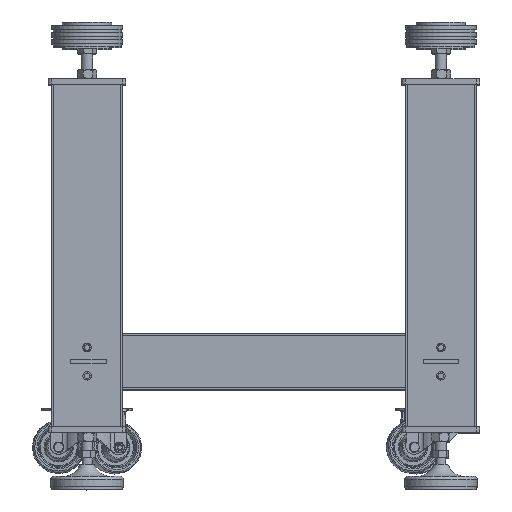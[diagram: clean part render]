
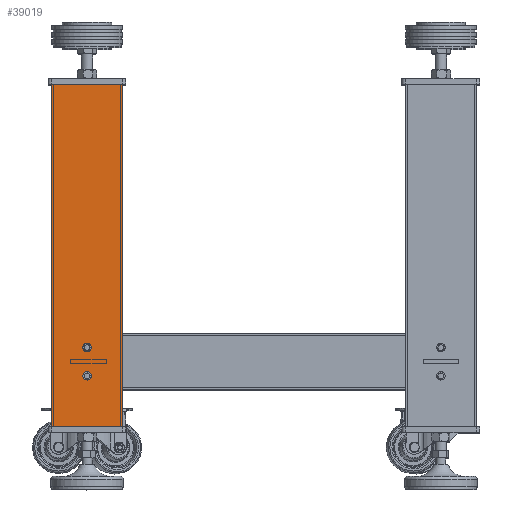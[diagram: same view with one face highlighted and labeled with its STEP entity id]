
A CAD part, top view. The second image highlights one B-rep face of the part: STEP entity #39019.
In plain terms, the highlighted planar face has unit normal (0, 0, 1) by its records, which use the part's own axes.
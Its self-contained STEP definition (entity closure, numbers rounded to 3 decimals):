
#3080=LINE($,#82954,#5348);
#3081=LINE($,#82956,#5349);
#3082=LINE($,#82958,#5350);
#3083=LINE($,#82959,#5351);
#5348=VECTOR($,#52492,100.);
#5349=VECTOR($,#52493,484.);
#5350=VECTOR($,#52494,100.);
#5351=VECTOR($,#52495,484.);
#6546=PLANE($,#42839);
#9429=FACE_BOUND($,#14228,.T.);
#9430=FACE_BOUND($,#14229,.T.);
#9431=FACE_BOUND($,#14230,.T.);
#14228=EDGE_LOOP($,(#35247));
#14229=EDGE_LOOP($,(#35248));
#14230=EDGE_LOOP($,(#35249,#35250,#35251,#35252));
#16502=CIRCLE($,#42840,6.);
#16503=CIRCLE($,#42841,6.);
#20078=VERTEX_POINT($,#82948);
#20079=VERTEX_POINT($,#82950);
#20080=VERTEX_POINT($,#82952);
#20081=VERTEX_POINT($,#82953);
#20082=VERTEX_POINT($,#82955);
#20083=VERTEX_POINT($,#82957);
#25256=EDGE_CURVE($,#20078,#20078,#16502,.T.);
#25257=EDGE_CURVE($,#20079,#20079,#16503,.T.);
#25258=EDGE_CURVE($,#20080,#20081,#3080,.T.);
#25259=EDGE_CURVE($,#20082,#20081,#3081,.T.);
#25260=EDGE_CURVE($,#20082,#20083,#3082,.T.);
#25261=EDGE_CURVE($,#20083,#20080,#3083,.T.);
#35247=ORIENTED_EDGE($,*,*,#25256,.T.);
#35248=ORIENTED_EDGE($,*,*,#25257,.T.);
#35249=ORIENTED_EDGE($,*,*,#25258,.T.);
#35250=ORIENTED_EDGE($,*,*,#25259,.F.);
#35251=ORIENTED_EDGE($,*,*,#25260,.T.);
#35252=ORIENTED_EDGE($,*,*,#25261,.T.);
#39019=ADVANCED_FACE($,(#9429,#9430,#9431),#6546,.T.);
#42839=AXIS2_PLACEMENT_3D($,#82947,#52486,#52487);
#42840=AXIS2_PLACEMENT_3D($,#82949,#52488,#52489);
#42841=AXIS2_PLACEMENT_3D($,#82951,#52490,#52491);
#52486=DIRECTION('center_axis',(0.,0.,
1.));
#52487=DIRECTION('ref_axis',(0.,1.,0.));
#52488=DIRECTION('center_axis',(0.,0.,
-1.));
#52489=DIRECTION('ref_axis',(0.,1.,0.));
#52490=DIRECTION('center_axis',(0.,0.,
-1.));
#52491=DIRECTION('ref_axis',(0.,1.,0.));
#52492=DIRECTION($,(1.,0.,0.));
#52493=DIRECTION($,(0.,-1.,0.));
#52494=DIRECTION($,(-1.,0.,0.));
#52495=DIRECTION($,(0.,-1.,0.));
#82947=CARTESIAN_POINT('Origin',(0.,492.,
700.));
#82948=CARTESIAN_POINT('',(50.,86.,700.));
#82949=CARTESIAN_POINT('Origin',(50.,80.,700.));
#82950=CARTESIAN_POINT('',(50.,126.,700.));
#82951=CARTESIAN_POINT('Origin',(50.,120.,700.));
#82952=CARTESIAN_POINT('',(0.,8.,700.));
#82953=CARTESIAN_POINT('',(100.,8.,700.));
#82954=CARTESIAN_POINT($,(100.,8.,700.));
#82955=CARTESIAN_POINT('',(100.,492.,700.));
#82956=CARTESIAN_POINT($,(100.,492.,700.));
#82957=CARTESIAN_POINT('',(0.,492.,700.));
#82958=CARTESIAN_POINT($,(100.,492.,700.));
#82959=CARTESIAN_POINT($,(0.,492.,700.));
